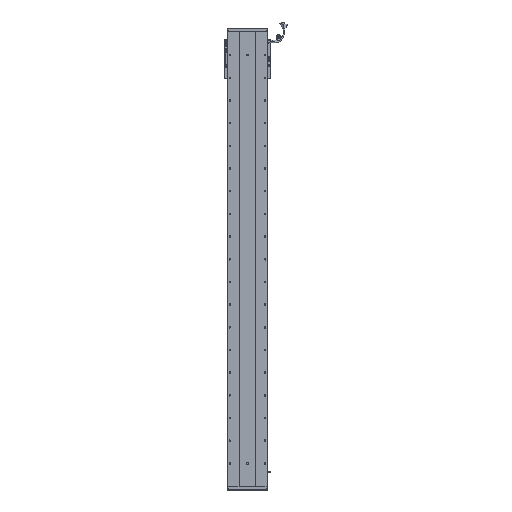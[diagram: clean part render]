
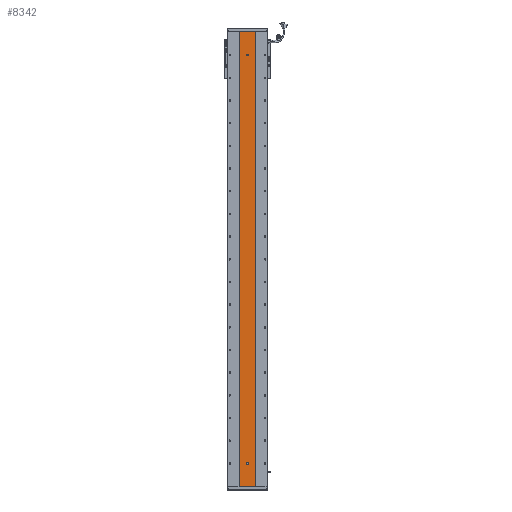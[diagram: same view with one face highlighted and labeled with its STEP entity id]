
A CAD part, front view. The second image highlights one B-rep face of the part: STEP entity #8342.
In plain terms, the highlighted planar face has unit normal (0, -1, 0).
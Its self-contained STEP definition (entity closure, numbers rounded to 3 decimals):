
#1393 = LINE ( 'NONE', #44674, #4076 ) ;
#3501 = AXIS2_PLACEMENT_3D ( 'NONE', #84181, #92833, #7384 ) ;
#4001 = ORIENTED_EDGE ( 'NONE', *, *, #21655, .F. ) ;
#4076 = VECTOR ( 'NONE', #11353, 1000. ) ;
#4835 = AXIS2_PLACEMENT_3D ( 'NONE', #52045, #87526, #42955 ) ;
#4870 = LINE ( 'NONE', #110340, #63026 ) ;
#5283 = ORIENTED_EDGE ( 'NONE', *, *, #103078, .F. ) ;
#5459 = DIRECTION ( 'NONE',  ( 0., -1., 0. ) ) ;
#6361 = ORIENTED_EDGE ( 'NONE', *, *, #108619, .F. ) ;
#6747 = CARTESIAN_POINT ( 'NONE',  ( 3244.748, 1415.701, 2007. ) ) ;
#7384 = DIRECTION ( 'NONE',  ( 0., 0., 1. ) ) ;
#7525 = EDGE_CURVE ( 'NONE', #11354, #12484, #80705, .T. ) ;
#7825 = DIRECTION ( 'NONE',  ( 0., 0., -1. ) ) ;
#8342 = ADVANCED_FACE ( 'NONE', ( #20778, #108615, #110020 ), #23667, .F. ) ;
#11282 = VERTEX_POINT ( 'NONE', #88158 ) ;
#11353 = DIRECTION ( 'NONE',  ( 0., 0., -1. ) ) ;
#11354 = VERTEX_POINT ( 'NONE', #23352 ) ;
#11777 = DIRECTION ( 'NONE',  ( 0., 0., -1. ) ) ;
#12055 = EDGE_CURVE ( 'NONE', #17426, #12484, #51214, .T. ) ;
#12484 = VERTEX_POINT ( 'NONE', #49710 ) ;
#12673 = AXIS2_PLACEMENT_3D ( 'NONE', #15256, #101038, #67798 ) ;
#13655 = LINE ( 'NONE', #50988, #79952 ) ;
#13758 = VECTOR ( 'NONE', #69795, 1000. ) ;
#14662 = VERTEX_POINT ( 'NONE', #6747 ) ;
#15256 = CARTESIAN_POINT ( 'NONE',  ( 3280.529, 1415.701, 105. ) ) ;
#16541 = EDGE_CURVE ( 'NONE', #14662, #11354, #59789, .T. ) ;
#17426 = VERTEX_POINT ( 'NONE', #106679 ) ;
#19355 = CARTESIAN_POINT ( 'NONE',  ( 3280.529, 1415.701, 102. ) ) ;
#20283 = CARTESIAN_POINT ( 'NONE',  ( 3277.529, 1415.701, 105. ) ) ;
#20778 = FACE_BOUND ( 'NONE', #67875, .T. ) ;
#21655 = EDGE_CURVE ( 'NONE', #61577, #73911, #35927, .T. ) ;
#23274 = CARTESIAN_POINT ( 'NONE',  ( 3280.529, 1415.701, 1903.5 ) ) ;
#23352 = CARTESIAN_POINT ( 'NONE',  ( 3316.311, 1415.701, 2007. ) ) ;
#23667 = PLANE ( 'NONE',  #3501 ) ;
#24790 = EDGE_LOOP ( 'NONE', ( #80413, #81293, #36082, #97050 ) ) ;
#27029 = CARTESIAN_POINT ( 'NONE',  ( 3244.748, 1415.701, 2007. ) ) ;
#29783 = EDGE_CURVE ( 'NONE', #82338, #61577, #73623, .T. ) ;
#33934 = CARTESIAN_POINT ( 'NONE',  ( 3280.529, 1415.701, 1900.5 ) ) ;
#35765 = EDGE_LOOP ( 'NONE', ( #91771, #5283 ) ) ;
#35927 = CIRCLE ( 'NONE', #4835, 3. ) ;
#36056 = CARTESIAN_POINT ( 'NONE',  ( 3277.529, 1415.701, 102. ) ) ;
#36082 = ORIENTED_EDGE ( 'NONE', *, *, #16541, .F. ) ;
#36627 = CARTESIAN_POINT ( 'NONE',  ( 3316.311, 1415.701, 2007. ) ) ;
#36937 = EDGE_CURVE ( 'NONE', #79073, #11282, #80612, .T. ) ;
#38093 = DIRECTION ( 'NONE',  ( 0., 0., -1. ) ) ;
#38406 = VERTEX_POINT ( 'NONE', #20283 ) ;
#39386 = CARTESIAN_POINT ( 'NONE',  ( 3283.529, 1415.701, 105. ) ) ;
#39600 = DIRECTION ( 'NONE',  ( 0., -1., 0. ) ) ;
#40430 = AXIS2_PLACEMENT_3D ( 'NONE', #19355, #63603, #11777 ) ;
#42955 = DIRECTION ( 'NONE',  ( 0., 0., -1. ) ) ;
#44674 = CARTESIAN_POINT ( 'NONE',  ( 3244.748, 1415.701, 2007. ) ) ;
#49710 = CARTESIAN_POINT ( 'NONE',  ( 3316.311, 1415.701, 0. ) ) ;
#50988 = CARTESIAN_POINT ( 'NONE',  ( 3277.529, 1415.701, 105. ) ) ;
#51214 = LINE ( 'NONE', #112086, #71419 ) ;
#52045 = CARTESIAN_POINT ( 'NONE',  ( 3280.529, 1415.701, 102. ) ) ;
#59789 = LINE ( 'NONE', #27029, #13758 ) ;
#59963 = EDGE_CURVE ( 'NONE', #38406, #82338, #13655, .T. ) ;
#61577 = VERTEX_POINT ( 'NONE', #96150 ) ;
#63026 = VECTOR ( 'NONE', #66943, 1000. ) ;
#63585 = EDGE_CURVE ( 'NONE', #81621, #38406, #80231, .T. ) ;
#63603 = DIRECTION ( 'NONE',  ( 0., -1., 0. ) ) ;
#63865 = DIRECTION ( 'NONE',  ( 0., 0., -1. ) ) ;
#64445 = VECTOR ( 'NONE', #63865, 1000. ) ;
#65995 = EDGE_CURVE ( 'NONE', #14662, #17426, #1393, .T. ) ;
#66943 = DIRECTION ( 'NONE',  ( 0., 0., 1. ) ) ;
#67798 = DIRECTION ( 'NONE',  ( 0., 0., -1. ) ) ;
#67875 = EDGE_LOOP ( 'NONE', ( #83731, #93927, #104678, #6361, #4001 ) ) ;
#69027 = DIRECTION ( 'NONE',  ( 1., 0., 0. ) ) ;
#69795 = DIRECTION ( 'NONE',  ( 1., 0., 0. ) ) ;
#71419 = VECTOR ( 'NONE', #69027, 1000. ) ;
#72009 = AXIS2_PLACEMENT_3D ( 'NONE', #23274, #5459, #100725 ) ;
#73623 = CIRCLE ( 'NONE', #40430, 3. ) ;
#73911 = VERTEX_POINT ( 'NONE', #110193 ) ;
#79073 = VERTEX_POINT ( 'NONE', #33934 ) ;
#79952 = VECTOR ( 'NONE', #7825, 1000. ) ;
#80231 = CIRCLE ( 'NONE', #12673, 3. ) ;
#80413 = ORIENTED_EDGE ( 'NONE', *, *, #12055, .T. ) ;
#80612 = CIRCLE ( 'NONE', #72009, 3. ) ;
#80705 = LINE ( 'NONE', #36627, #64445 ) ;
#81293 = ORIENTED_EDGE ( 'NONE', *, *, #7525, .F. ) ;
#81621 = VERTEX_POINT ( 'NONE', #39386 ) ;
#82338 = VERTEX_POINT ( 'NONE', #36056 ) ;
#83731 = ORIENTED_EDGE ( 'NONE', *, *, #29783, .F. ) ;
#84181 = CARTESIAN_POINT ( 'NONE',  ( 3244.748, 1415.701, 2007. ) ) ;
#87526 = DIRECTION ( 'NONE',  ( 0., -1., 0. ) ) ;
#88158 = CARTESIAN_POINT ( 'NONE',  ( 3280.529, 1415.701, 1906.5 ) ) ;
#91771 = ORIENTED_EDGE ( 'NONE', *, *, #36937, .F. ) ;
#92833 = DIRECTION ( 'NONE',  ( 0., 1., 0. ) ) ;
#93927 = ORIENTED_EDGE ( 'NONE', *, *, #59963, .F. ) ;
#96150 = CARTESIAN_POINT ( 'NONE',  ( 3280.529, 1415.701, 99. ) ) ;
#97050 = ORIENTED_EDGE ( 'NONE', *, *, #65995, .T. ) ;
#100298 = AXIS2_PLACEMENT_3D ( 'NONE', #107274, #39600, #38093 ) ;
#100725 = DIRECTION ( 'NONE',  ( 0., 0., -1. ) ) ;
#101038 = DIRECTION ( 'NONE',  ( 0., -1., 0. ) ) ;
#103078 = EDGE_CURVE ( 'NONE', #11282, #79073, #103196, .T. ) ;
#103196 = CIRCLE ( 'NONE', #100298, 3. ) ;
#104678 = ORIENTED_EDGE ( 'NONE', *, *, #63585, .F. ) ;
#106679 = CARTESIAN_POINT ( 'NONE',  ( 3244.748, 1415.701, 0. ) ) ;
#107274 = CARTESIAN_POINT ( 'NONE',  ( 3280.529, 1415.701, 1903.5 ) ) ;
#108615 = FACE_BOUND ( 'NONE', #35765, .T. ) ;
#108619 = EDGE_CURVE ( 'NONE', #73911, #81621, #4870, .T. ) ;
#110020 = FACE_OUTER_BOUND ( 'NONE', #24790, .T. ) ;
#110193 = CARTESIAN_POINT ( 'NONE',  ( 3283.529, 1415.701, 102. ) ) ;
#110340 = CARTESIAN_POINT ( 'NONE',  ( 3283.529, 1415.701, 105. ) ) ;
#112086 = CARTESIAN_POINT ( 'NONE',  ( 3244.748, 1415.701, 0. ) ) ;
